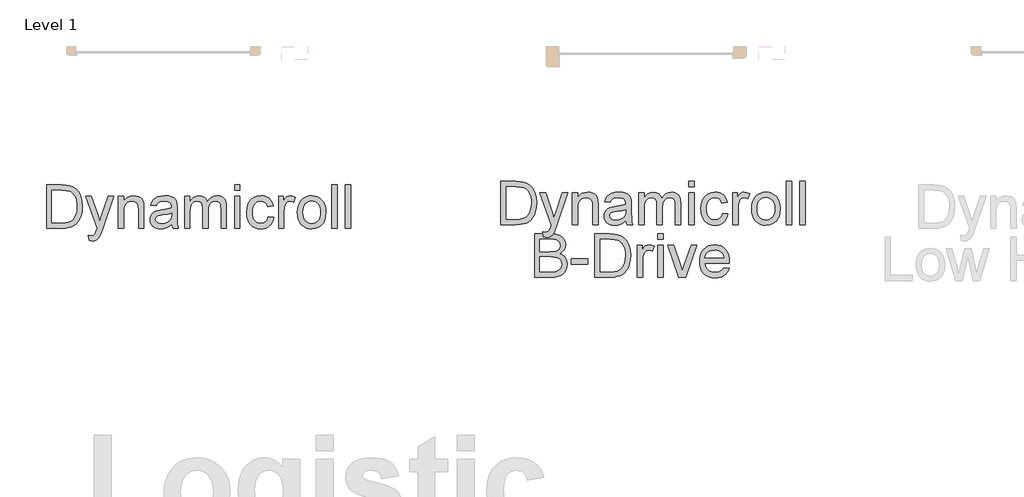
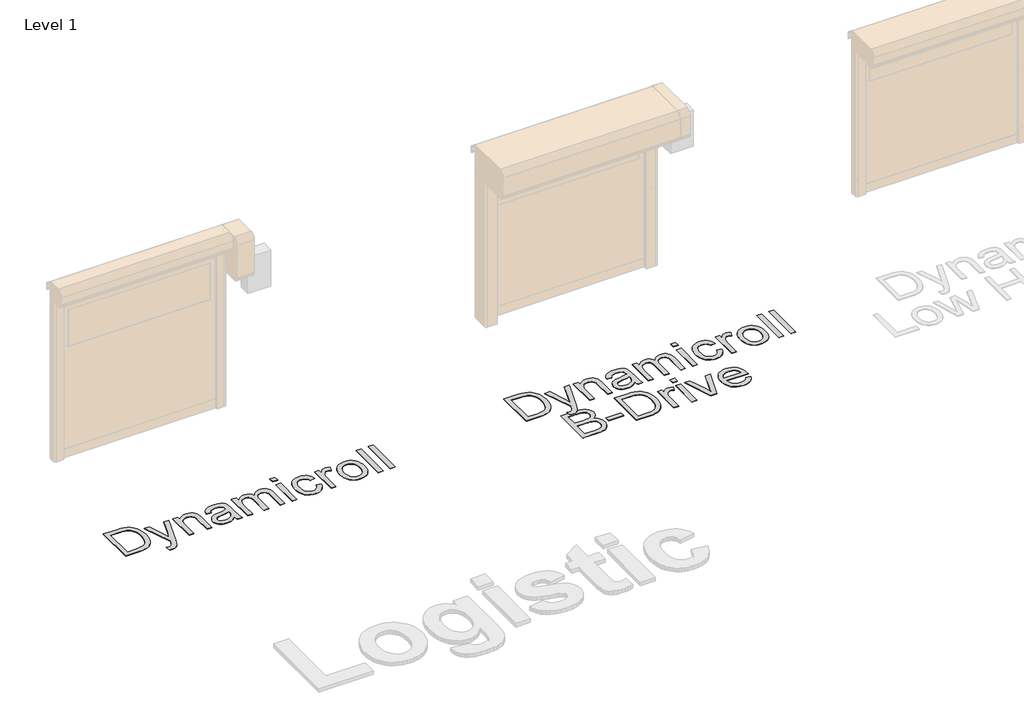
# One storey, part 8 of 20: 2 proxies.
"""IFC4 building model written with IfcOpenShell, lengths in millimetres."""

import ifcopenshell
import ifcopenshell.guid

model = None  # the IFC model being written
_history = None  # IfcOwnerHistory: only IFC2X3 demands one
_inside = {}  # id of a spatial element -> (the spatial element, [elements in it])
_under = {}  # id of a project, library or spatial element -> (it, [spatial elements below it])
_declared = {}  # id of a project -> (the project, [libraries it declares])
_typed = {}  # id of a type object -> (the type object, [elements of that type])
_made_of = {}  # id of a material, layer set ... -> (it, [elements and type objects made of it])


def new_model(schema):
    """Start an empty IFC model of exactly this schema.

    Asked for "IFC4X3", IfcOpenShell would pick the latest addendum, in which some entities
    have other attributes; the version numbers below select the first issue.
    IFC2X3 requires an IfcOwnerHistory on every rooted entity: one is made here for all.
    """
    global model, _history
    if schema == "IFC4X3":
        model = ifcopenshell.file(schema_version=(4, 3, 0, 0))
    else:
        model = ifcopenshell.file(schema=schema)
    _inside.clear()
    _under.clear()
    _declared.clear()
    _typed.clear()
    _made_of.clear()
    _history = None
    if model.schema == "IFC2X3":
        org = make("IfcOrganization", Name="unknown")
        user = make(
            "IfcPersonAndOrganization",
            ThePerson=make("IfcPerson", FamilyName="unknown"),
            TheOrganization=org,
        )
        app = make(
            "IfcApplication",
            ApplicationDeveloper=org,
            Version="unknown",
            ApplicationFullName="unknown",
            ApplicationIdentifier="unknown",
        )
        _history = make(
            "IfcOwnerHistory",
            OwningUser=user,
            OwningApplication=app,
            ChangeAction="ADDED",
            CreationDate=0,
        )
    return model


def make(cls, **values):
    """One entity of the class cls with the attributes given. An attribute that is None is left unset."""
    return model.create_entity(
        cls, **{name: value for name, value in values.items() if value is not None}
    )


def rooted(cls, **values):
    """An entity with a GlobalId (a new one), such as an element, a storey or a relation."""
    return make(cls, GlobalId=ifcopenshell.guid.new(), OwnerHistory=_history, **values)


def si_unit(unit_type, name, prefix=None):
    """IfcSIUnit, for example si_unit("LENGTHUNIT", "METRE", prefix="MILLI")."""
    return make("IfcSIUnit", UnitType=unit_type, Prefix=prefix, Name=name)


def assignment(units):
    """IfcUnitAssignment: the units of a project."""
    return None if units is None else make("IfcUnitAssignment", Units=units)


def point(xyz):
    """IfcCartesianPoint."""
    return None if xyz is None else make("IfcCartesianPoint", Coordinates=xyz)


def direction(xyz):
    """IfcDirection."""
    return None if xyz is None else make("IfcDirection", DirectionRatios=xyz)


def frame(location, z_axis=None, x_axis=None):
    """IfcAxis2Placement3D, a coordinate frame: its origin and axes. An axis left out is left unset."""
    return make(
        "IfcAxis2Placement3D",
        Location=point(location),
        Axis=direction(z_axis),
        RefDirection=direction(x_axis),
    )


def origin():
    """The frame at (0, 0, 0) with its axes left unset."""
    return frame((0.0, 0.0, 0.0))


def origin_with_axes():
    """The frame at (0, 0, 0) with the z axis (0, 0, 1) and the x axis (1, 0, 0) written out."""
    return frame((0.0, 0.0, 0.0), z_axis=(0.0, 0.0, 1.0), x_axis=(1.0, 0.0, 0.0))


def place(relative_to, where):
    """IfcLocalPlacement: puts the frame where relative to a parent placement (None: the world)."""
    return make(
        "IfcLocalPlacement", PlacementRelTo=relative_to, RelativePlacement=where
    )


def context(
    kind, dimensions, precision=None, world=None, true_north=None, identifier=None
):
    """IfcGeometricRepresentationContext, for example the 3D "Model" context."""
    return make(
        "IfcGeometricRepresentationContext",
        ContextIdentifier=identifier,
        ContextType=kind,
        CoordinateSpaceDimension=dimensions,
        Precision=precision,
        WorldCoordinateSystem=world,
        TrueNorth=true_north,
    )


def project(units=None, contexts=None):
    """IfcProject with its units and contexts."""
    return rooted(
        "IfcProject",
        Name="project",
        RepresentationContexts=contexts,
        UnitsInContext=assignment(units),
    )


def spatial(cls, under=None, at=None, **own):
    """A site, building, storey or space (cls), placed at a placement, below another one or the project."""
    s = rooted(cls, ObjectPlacement=at, **own)
    if under is not None:
        _under.setdefault(under.id(), (under, []))[1].append(s)
    return s


def polyline(points):
    """IfcPolyline through the points."""
    return make("IfcPolyline", Points=[point(p) for p in points])


def outline(outer, holes=None, kind="AREA"):
    """IfcArbitraryClosedProfileDef: a profile drawn as a closed curve; with holes, ...WithVoids."""
    if holes is None:
        return make("IfcArbitraryClosedProfileDef", ProfileType=kind, OuterCurve=outer)
    return make(
        "IfcArbitraryProfileDefWithVoids",
        ProfileType=kind,
        OuterCurve=outer,
        InnerCurves=holes,
    )


def extrude(swept, where, along, depth):
    """IfcExtrudedAreaSolid: the profile swept, set in the frame where, extruded along a direction by depth."""
    return make(
        "IfcExtrudedAreaSolid",
        SweptArea=swept,
        Position=where,
        ExtrudedDirection=direction(along),
        Depth=depth,
    )


def shape(context_of_items, identifier, shape_type, items):
    """IfcShapeRepresentation: the items that make up one representation, for example the "Body"."""
    return make(
        "IfcShapeRepresentation",
        ContextOfItems=context_of_items,
        RepresentationIdentifier=identifier,
        RepresentationType=shape_type,
        Items=items,
    )


def made_of(thing, what):
    """Note that an element or type object is made of a material, layer set ...; save() writes the relation."""
    if what is not None:
        _made_of.setdefault(what.id(), (what, []))[1].append(thing)
    return thing


def element(
    cls,
    number,
    at=None,
    inside=None,
    cuts=None,
    type_object=None,
    material=None,
    context=None,
    identifier="Body",
    shape_type=None,
    held_by="IfcProductDefinitionShape",
    body=None,
    shapes=None,
    **own,
):
    """One element of the class cls, such as IfcWall. Its Tag is "e" and its number.

    at: its placement. inside: the storey or other place that contains it. cuts: it is an
    opening in that element (IfcRelVoidsElement). A single representation is given by context,
    identifier, shape_type and body (its items); several are given by shapes. held_by: the class
    of the entity that holds the representations. save() writes the other relations.
    """
    e = rooted(cls, Tag="e%d" % number, ObjectPlacement=at, **own)
    if body is not None:
        shapes = [shape(context, identifier, shape_type, body)]
    if shapes is not None:
        e.Representation = make(held_by, Representations=shapes)
    if inside is not None:
        _inside.setdefault(inside.id(), (inside, []))[1].append(e)
    if cuts is not None:
        rooted(
            "IfcRelVoidsElement", RelatingBuildingElement=cuts, RelatedOpeningElement=e
        )
    if type_object is not None:
        _typed.setdefault(type_object.id(), (type_object, []))[1].append(e)
    return made_of(e, material)


def aggregate(whole, parts):
    """IfcRelAggregates: a whole, such as a stair, and the parts it consists of."""
    return rooted("IfcRelAggregates", RelatingObject=whole, RelatedObjects=parts)


def save(model, path):
    """Write the relations noted so far, then the file.

    IfcRelAggregates (storeys below a building ...), IfcRelContainedInSpatialStructure (elements
    in a storey), IfcRelDefinesByType, IfcRelAssociatesMaterial and IfcRelDeclares: one each for
    every whole, place, type object, material and project.
    """
    for whole, parts in _under.values():
        aggregate(whole, parts)
    for where, things in _inside.values():
        rooted(
            "IfcRelContainedInSpatialStructure",
            RelatedElements=things,
            RelatingStructure=where,
        )
    for kind, things in _typed.values():
        rooted("IfcRelDefinesByType", RelatedObjects=things, RelatingType=kind)
    for what, things in _made_of.values():
        rooted("IfcRelAssociatesMaterial", RelatedObjects=things, RelatingMaterial=what)
    for by, libraries in _declared.values():
        rooted("IfcRelDeclares", RelatingContext=by, RelatedDefinitions=libraries)
    model.write(path)


model = new_model("IFC4")

# Units and contexts
model_context = context("Model", 3, world=origin())
ifc_project = project(units=[si_unit("LENGTHUNIT", "METRE", prefix="MILLI")], contexts=[model_context])

# Site, building, storey
site = spatial("IfcSite", under=ifc_project)
building = spatial("IfcBuilding", under=site)
storey = spatial("IfcBuildingStorey", under=building, Name="Level 1", Elevation=0.0)

# Proxies
placement = place(None, origin())
element("IfcBuildingElementProxy", 1, Name="500mm", ObjectType="500mm", at=placement, inside=storey, context=model_context, shape_type="SweptSolid", body=[
    extrude(outline(polyline([(5402.5904997, 30395.6464997), (5402.5904997, 30897.9280504), (5575.8629195, 30897.9280504), (5627.6423103, 30896.1192973), (5665.5034989, 30890.6930378), (5705.5413228, 30876.7441789), (5739.3251526, 30854.7632296), (5757.9415144, 30836.7983256), (5774.0593444, 30816.5035022), (5787.6786424, 30793.8787594), (5798.7994085, 30768.9240974), (5813.6066588, 30712.9447205), (5818.5424089, 30649.4850763), (5815.2008142, 30595.5750356), (5805.1760298, 30548.1335867), (5789.908927, 30507.7432093), (5770.8403769, 30474.9863833), (5748.8900845, 30449.1273447), (5724.9777548, 30429.4303296), (5697.5245609, 30414.8223487), (5664.951676, 30404.2304129), (5627.1977862, 30397.792478), (5584.201578, 30395.6464997), (5402.5904997, 30395.6464997)]), holes=[polyline([(5465.3756936, 30458.4316935), (5576.4760561, 30458.4316935), (5622.4306487, 30460.7002991), (5657.2874677, 30467.5061161), (5683.5910304, 30478.4506054), (5703.8858538, 30493.1352284), (5725.6981904, 30520.3125108), (5742.0842676, 30555.4912266), (5752.3389782, 30598.8246599), (5755.7572151, 30650.466095), (5754.0825856, 30686.9170694), (5749.0586971, 30718.8921461), (5740.6855496, 30746.3913252), (5728.9631431, 30769.4146068), (5714.8418394, 30788.4831569), (5699.2720004, 30804.1181416), (5682.253626, 30816.3195612), (5663.7867163, 30825.0874154), (5627.6729671, 30832.6289963), (5574.7592735, 30835.1428566), (5465.3756936, 30835.1428566), (5465.3756936, 30458.4316935)])]), origin_with_axes(), (0.0, 0.0, 1.0), 5.0),
    extrude(outline(polyline([(5897.0239012, 30254.3798135), (5889.175752, 30314.8350881), (5921.0588583, 30309.3168581), (5937.8281459, 30311.0489692), (5950.8572999, 30316.2453024), (5961.0047116, 30324.5379757), (5969.1287723, 30335.5591071), (5986.2965987, 30381.7896112), (5991.201692, 30396.9954003), (5857.7831551, 30764.5095135), (5924.0019142, 30764.5095135), (5994.7578846, 30559.7218695), (6019.4059783, 30477.8068119), (6044.054072, 30550.1569376), (6116.7720797, 30764.5095135), (6182.5003295, 30764.5095135), (6054.1095132, 30386.8173318), (6020.754879, 30304.9022742), (6003.679023, 30278.7519957), (5984.3345614, 30260.6338074), (5961.8631029, 30250.0572001), (5935.4062561, 30246.5316643), (5917.2267541, 30248.4937016), (5897.0239012, 30254.3798135)])), origin_with_axes(), (0.0, 0.0, 1.0), 5.0),
    extrude(outline(polyline([(6234.4943182, 30395.6464997), (6234.4943182, 30764.5095135), (6297.279512, 30764.5095135), (6297.279512, 30713.0060342), (6319.0918486, 30738.9723717), (6345.2881124, 30757.5197556), (6375.8683032, 30768.6481859), (6410.8324212, 30772.3576627), (6441.780494, 30769.3686215), (6470.1227361, 30760.4014979), (6493.7591543, 30746.5752662), (6510.5897555, 30729.008901), (6522.0094258, 30707.7483873), (6529.413051, 30682.8397106), (6532.7239889, 30622.1391814), (6532.7239889, 30395.6464997), (6469.9387951, 30395.6464997), (6469.9387951, 30613.6778955), (6468.1300419, 30646.1434816), (6462.7037825, 30669.2280767), (6452.6943265, 30685.7674381), (6437.1359838, 30698.5973227), (6417.193714, 30706.8286823), (6394.0324767, 30709.5724689), (6374.9677588, 30708.031963), (6357.2596056, 30703.4104455), (6340.9080174, 30695.7079162), (6325.912994, 30684.9243752), (6313.3858456, 30669.8335492), (6304.4378825, 30649.2091648), (6299.0691046, 30623.0512221), (6297.279512, 30591.3597211), (6297.279512, 30395.6464997), (6234.4943182, 30395.6464997)])), origin_with_axes(), (0.0, 0.0, 1.0), 5.0),
    extrude(outline(polyline([(6854.4981074, 30442.7353951), (6824.5003963, 30417.0143122), (6793.6136372, 30400.1837109), (6761.1327227, 30390.8946906), (6726.3525457, 30387.7983504), (6698.3973462, 30389.660753), (6673.8833761, 30395.2479608), (6652.8106356, 30404.5599738), (6635.1791246, 30417.596792), (6621.2570903, 30433.530681), (6611.3127801, 30451.5339061), (6605.346194, 30471.6064675), (6603.357332, 30493.748365), (6606.3617016, 30519.7760162), (6615.3748105, 30543.4124344), (6629.2776842, 30563.6459441), (6646.9513484, 30579.4648699), (6667.7213527, 30591.4210348), (6690.9132468, 30600.0662617), (6745.2371548, 30609.5085662), (6809.432563, 30619.4413801), (6854.1302254, 30631.0909766), (6854.4981074, 30645.0704924), (6850.1754939, 30673.0908377), (6837.2076536, 30691.4236238), (6824.1325143, 30699.3637435), (6808.2062896, 30705.0352576), (6767.8005838, 30709.5724689), (6730.3992477, 30706.5527708), (6704.279626, 30697.4936767), (6686.4680061, 30680.7397175), (6673.9906751, 30654.6354243), (6611.2054812, 30662.4835735), (6622.1039853, 30696.8192264), (6638.3674352, 30723.7972394), (6661.5133441, 30744.4292879), (6693.0592251, 30759.7270476), (6731.6408494, 30769.2000089), (6775.8939877, 30772.3576627), (6818.3383729, 30769.5678909), (6851.9842471, 30761.1985755), (6877.3527763, 30748.6139456), (6894.9651268, 30733.1782302), (6906.6453802, 30714.0943517), (6914.2176179, 30690.5652325), (6917.2833012, 30635.6281879), (6917.2833012, 30557.5145775), (6920.4716118, 30448.437566), (6925.1927641, 30421.4748814), (6932.9795997, 30395.6464997), (6870.1944058, 30395.6464997), (6860.1389646, 30417.4741647), (6854.4981074, 30442.7353951)]), holes=[polyline([(6854.4981074, 30568.3057827), (6812.3143052, 30557.8518027), (6753.2079314, 30549.0532917), (6699.1905917, 30538.8752231), (6685.1344338, 30531.916122), (6674.7264391, 30522.3205333), (6668.2885041, 30510.824221), (6666.1425258, 30498.162949), (6670.8176929, 30479.4929377), (6684.8431939, 30464.1951781), (6707.9124607, 30453.9864527), (6739.7189249, 30450.5835443), (6773.4414411, 30454.3390063), (6803.2398827, 30465.6053924), (6827.397467, 30482.2060675), (6844.1974115, 30501.9643963), (6851.6470219, 30522.3205333), (6854.1302254, 30550.5248196), (6854.4981074, 30568.3057827)])]), origin_with_axes(), (0.0, 0.0, 1.0), 5.0),
    extrude(outline(polyline([(7003.6129427, 30395.6464997), (7003.6129427, 30764.5095135), (7066.3981366, 30764.5095135), (7066.3981366, 30703.8089843), (7085.2827457, 30731.6913738), (7109.5629574, 30753.5343673), (7138.4110371, 30767.6518389), (7170.9992505, 30772.3576627), (7205.9173833, 30767.5598684), (7233.9070717, 30753.1664853), (7254.8150318, 30730.1278754), (7268.4879793, 30699.3944004), (7291.373305, 30731.3158276), (7317.4775983, 30754.1168471), (7346.800859, 30767.7974588), (7379.3430871, 30772.3576627), (7404.477858, 30770.4607712), (7426.5392814, 30764.7700966), (7445.5273573, 30755.2856389), (7461.4420857, 30742.0073981), (7474.0228836, 30724.7820901), (7483.0091677, 30703.4564307), (7488.4009382, 30678.0304199), (7490.198195, 30648.5040577), (7490.198195, 30395.6464997), (7427.4130012, 30395.6464997), (7427.4130012, 30621.5260447), (7425.9568016, 30652.8419995), (7421.5882029, 30673.949229), (7413.4028285, 30688.4039257), (7400.4963019, 30699.7622823), (7383.8956268, 30707.1199223), (7364.6278073, 30709.5724689), (7346.8353479, 30708.0013062), (7330.6140512, 30703.2878181), (7315.9639172, 30695.4320047), (7302.8849458, 30684.4338659), (7292.1282296, 30669.9715049), (7284.4448608, 30651.7230251), (7279.8348396, 30629.6884265), (7278.2981658, 30603.8677089), (7278.2981658, 30395.6464997), (7215.512972, 30395.6464997), (7215.512972, 30628.5158026), (7211.8801373, 30664.0164152), (7200.9816332, 30689.3389592), (7192.5548362, 30698.1911197), (7181.8057842, 30704.5140915), (7153.3409148, 30709.5724689), (7129.1526736, 30706.2002173), (7106.8651561, 30696.0834624), (7088.4710563, 30679.4674589), (7075.9630685, 30656.5974616), (7068.7893696, 30624.8676395), (7066.3981366, 30581.6721619), (7066.3981366, 30395.6464997), (7003.6129427, 30395.6464997)])), origin_with_axes(), (0.0, 0.0, 1.0), 5.0),
    extrude(outline(polyline([(7584.3759858, 30835.1428566), (7584.3759858, 30897.9280504), (7647.1611796, 30897.9280504), (7647.1611796, 30835.1428566), (7584.3759858, 30835.1428566)])), origin_with_axes(), (0.0, 0.0, 1.0), 5.0),
    extrude(outline(polyline([(7584.3759858, 30395.6464997), (7584.3759858, 30764.5095135), (7647.1611796, 30764.5095135), (7647.1611796, 30395.6464997), (7584.3759858, 30395.6464997)])), origin_with_axes(), (0.0, 0.0, 1.0), 5.0),
    extrude(outline(polyline([(7976.7834473, 30529.0650366), (8039.5686412, 30521.2168874), (8032.7398316, 30491.5908904), (8022.0635896, 30465.3754662), (8007.539915, 30442.5706146), (7989.1688078, 30423.1763356), (7967.7243532, 30407.6984671), (7943.9806361, 30396.6428467), (7917.9376565, 30390.0094745), (7889.5954145, 30387.7983504), (7854.3822097, 30390.8831943), (7822.8095039, 30400.1377257), (7794.877297, 30415.5619448), (7770.585589, 30437.1558515), (7750.9230628, 30464.5132427), (7736.8784012, 30497.2279156), (7728.4516043, 30535.29987), (7725.6426719, 30578.7291059), (7730.4404663, 30634.601184), (7744.8338494, 30683.0236516), (7755.6863682, 30703.9737648), (7769.0527474, 30722.126442), (7784.9329868, 30737.4816832), (7803.3270866, 30750.0394884), (7844.3306006, 30766.7781191), (7888.7370231, 30772.3576627), (7916.592588, 30770.4416107), (7941.7886725, 30764.6934545), (7964.3252768, 30755.1131942), (7984.2024009, 30741.7008298), (8001.0828195, 30724.7629296), (8014.6293076, 30704.606062), (8024.841865, 30681.2302268), (8031.7204919, 30654.6354243), (7968.9352981, 30646.787275), (7957.5462846, 30674.1791553), (7939.8113068, 30693.8148568), (7916.7113832, 30705.6330659), (7889.2275325, 30709.5724689), (7867.8942088, 30707.6334242), (7848.6532141, 30701.8162902), (7831.5045482, 30692.1210667), (7816.4482111, 30678.547754), (7804.18931, 30660.7821193), (7795.4329521, 30638.5099302), (7790.1791374, 30611.7311866), (7788.4278658, 30580.4458886), (7790.1408163, 30548.6892418), (7795.2796679, 30521.6000978), (7803.8444206, 30499.1784566), (7815.8350744, 30481.4243182), (7830.5925074, 30467.9314796), (7847.4575976, 30458.2937378), (7866.4303451, 30452.5110927), (7887.5107498, 30450.5835443), (7920.0223211, 30455.3966671), (7946.6784374, 30469.8360354), (7957.4581463, 30480.7575321), (7966.0688842, 30494.2695312), (7976.7834473, 30529.0650366)])), origin_with_axes(), (0.0, 0.0, 1.0), 5.0),
    extrude(outline(polyline([(8094.5056858, 30395.6464997), (8094.5056858, 30764.5095135), (8149.4427304, 30764.5095135), (8149.4427304, 30709.9403509), (8169.7375538, 30741.5782025), (8188.4382219, 30760.2175569), (8207.2002036, 30769.3226363), (8227.678968, 30772.3576627), (8258.9489376, 30767.5138831), (8290.7094165, 30752.9825443), (8269.7401428, 30696.6965991), (8247.6672231, 30706.3535014), (8225.5943034, 30709.5724689), (8206.84765, 30706.4761288), (8190.0936909, 30697.1871084), (8176.5586991, 30682.4105149), (8167.4689481, 30662.8514555), (8159.8353967, 30627.7800386), (8157.2908796, 30589.5203111), (8157.2908796, 30395.6464997), (8094.5056858, 30395.6464997)])), origin_with_axes(), (0.0, 0.0, 1.0), 5.0),
    extrude(outline(polyline([(8314.2538642, 30580.0780066), (8317.6491085, 30627.8490165), (8327.8348412, 30669.0134789), (8344.8110624, 30703.5713938), (8368.5777722, 30731.5227613), (8392.5054303, 30749.3880307), (8418.9162919, 30762.1489374), (8447.8103569, 30769.8054814), (8479.1876254, 30772.3576627), (8513.8260145, 30769.2498263), (8545.1458014, 30759.926317), (8573.1469862, 30744.3871348), (8597.8295688, 30722.6322797), (8617.9749402, 30695.3975158), (8632.3644911, 30663.4186069), (8640.9982217, 30626.6955532), (8643.8761319, 30585.2283545), (8638.7870976, 30521.7993672), (8632.4258048, 30495.7640518), (8623.5199948, 30473.5148553), (8612.1807988, 30454.2968532), (8598.5193476, 30437.3551209), (8582.5356413, 30422.6896584), (8564.2296799, 30410.3004658), (8523.5020774, 30393.4238793), (8479.1876254, 30387.7983504), (8444.0433985, 30390.8946906), (8412.4323717, 30400.1837109), (8384.3545448, 30415.6654116), (8359.809918, 30437.3397925), (8339.8791444, 30464.8389716), (8325.6428777, 30497.795067), (8317.1011176, 30536.2080787), (8314.2538642, 30580.0780066)]), holes=[polyline([(8377.0390581, 30580.2006339), (8378.8554754, 30549.7469025), (8384.3047275, 30523.3781941), (8393.3868142, 30501.0945086), (8406.1017357, 30482.8958462), (8421.5681079, 30468.7592141), (8438.9045469, 30458.6616198), (8458.1110528, 30452.6030632), (8479.1876254, 30450.5835443), (8500.1568991, 30452.6145595), (8519.2867629, 30458.707605), (8536.5772166, 30468.8626809), (8552.0282604, 30483.0797872), (8564.7431819, 30501.4585585), (8573.8252687, 30524.0986297), (8579.2745207, 30551.0000005), (8581.0909381, 30582.1626712), (8579.2630244, 30611.6507124), (8573.7792834, 30637.3296421), (8564.6397151, 30659.1994603), (8551.8443194, 30677.260167), (8536.3357941, 30691.3967991), (8519.0568366, 30701.4943934), (8500.0074471, 30707.55295), (8479.1876254, 30709.5724689), (8458.1110528, 30707.5606142), (8438.9045469, 30701.5250502), (8421.5681079, 30691.4657769), (8406.1017357, 30677.3827943), (8393.3868142, 30659.2377813), (8384.3047275, 30636.9924169), (8378.8554754, 30610.6467011), (8377.0390581, 30580.2006339)])]), origin_with_axes(), (0.0, 0.0, 1.0), 5.0),
    extrude(outline(polyline([(8714.509475, 30395.6464997), (8714.509475, 30897.9280504), (8777.2946688, 30897.9280504), (8777.2946688, 30395.6464997), (8714.509475, 30395.6464997)])), origin_with_axes(), (0.0, 0.0, 1.0), 5.0),
    extrude(outline(polyline([(8871.4724596, 30395.6464997), (8871.4724596, 30897.9280504), (8934.2576534, 30897.9280504), (8934.2576534, 30395.6464997), (8871.4724596, 30395.6464997)])), origin_with_axes(), (0.0, 0.0, 1.0), 5.0),
    extrude(outline(polyline([(5794.9979613, 29785.7724104), (5794.9979613, 30288.0539612), (5986.6644807, 30288.0539612), (6039.378905, 30284.3598128), (6080.5357032, 30273.2773677), (6112.0815843, 30254.5307144), (6135.9632571, 30227.8439413), (6151.0004337, 30196.4513444), (6156.0128259, 30163.5872195), (6151.7975113, 30133.3442538), (6139.1515677, 30104.9100413), (6117.9830246, 30080.0320213), (6088.1999114, 30060.4576335), (6107.1496663, 30052.379558), (6123.777166, 30041.8795928), (6138.0824107, 30028.9577377), (6150.0654003, 30013.6139928), (6166.2981933, 29977.5309004), (6171.7091243, 29935.5003825), (6168.0149759, 29900.4749509), (6156.9325308, 29867.9940364), (6140.3931695, 29840.3722299), (6120.3282723, 29819.9241223), (6095.7568207, 29805.116872), (6065.697796, 29794.4176373), (6029.1701796, 29787.9337172), (5985.1929528, 29785.7724104), (5794.9979613, 29785.7724104)]), holes=[polyline([(5857.7831551, 30084.0020812), (5972.4397103, 30084.0020812), (6012.5388477, 30085.3509818), (6039.3942334, 30089.3976838), (6062.8313822, 30098.7020326), (6079.6773119, 30112.6355632), (6089.840052, 30130.9836777), (6093.227632, 30153.5317783), (6090.0699782, 30175.420757), (6080.5970168, 30194.4893071), (6065.2379435, 30209.3731995), (6044.421954, 30218.7082051), (6012.4775341, 30223.6286268), (5963.7331697, 30225.2687673), (5857.7831551, 30225.2687673), (5857.7831551, 30084.0020812)]), polyline([(5857.7831551, 29848.5576043), (5986.5418534, 29848.5576043), (6033.1402395, 29851.0101509), (6054.7686351, 29856.4517388), (6072.5649266, 29864.6830984), (6087.0349518, 29876.4706507), (6098.6845483, 29892.5808164), (6106.3640849, 29912.29316), (6108.9239305, 29934.8872458), (6105.9195608, 29961.1294948), (6096.906452, 29983.6929238), (6081.1641682, 30001.3359312), (6057.9722741, 30012.8169151), (6025.1234777, 30019.1168943), (5980.4104868, 30021.2168874), (5857.7831551, 30021.2168874), (5857.7831551, 29848.5576043)])]), origin_with_axes(), (0.0, 0.0, 1.0), 5.0),
    extrude(outline(polyline([(6218.7980197, 29934.8872458), (6218.7980197, 29997.6724397), (6415.0017505, 29997.6724397), (6415.0017505, 29934.8872458), (6218.7980197, 29934.8872458)])), origin_with_axes(), (0.0, 0.0, 1.0), 5.0),
    extrude(outline(polyline([(6493.4832428, 29785.7724104), (6493.4832428, 30288.0539612), (6666.7556625, 30288.0539612), (6718.5350533, 30286.245208), (6756.396242, 30280.8189486), (6796.4340658, 30266.8700896), (6830.2178957, 30244.8891404), (6848.8342575, 30226.9242363), (6864.9520874, 30206.6294129), (6878.5713854, 30184.0046702), (6889.6921516, 30159.0500082), (6904.4994019, 30103.0706313), (6909.435152, 30039.6109871), (6906.0935572, 29985.7009464), (6896.0687728, 29938.2594974), (6880.80167, 29897.8691201), (6861.7331199, 29865.1122941), (6839.7828276, 29839.2532555), (6815.8704979, 29819.5562403), (6788.417304, 29804.9482594), (6755.844419, 29794.3563237), (6718.0905292, 29787.9183887), (6675.094321, 29785.7724104), (6493.4832428, 29785.7724104)]), holes=[polyline([(6556.2684366, 29848.5576043), (6667.3687991, 29848.5576043), (6713.3233917, 29850.8262099), (6748.1802108, 29857.6320268), (6774.4837734, 29868.5765162), (6794.7785968, 29883.2611392), (6816.5909334, 29910.4384216), (6832.9770106, 29945.6171373), (6843.2317213, 29988.9505707), (6846.6499581, 30040.5920058), (6844.9753286, 30077.0429801), (6839.9514401, 30109.0180569), (6831.5782926, 30136.517236), (6819.8558861, 30159.5405175), (6805.7345825, 30178.6090676), (6790.1647435, 30194.2440524), (6773.1463691, 30206.4454719), (6754.6794593, 30215.2133261), (6718.5657101, 30222.754907), (6665.6520165, 30225.2687673), (6556.2684366, 30225.2687673), (6556.2684366, 29848.5576043)])]), origin_with_axes(), (0.0, 0.0, 1.0), 5.0),
    extrude(outline(polyline([(6987.9166443, 29785.7724104), (6987.9166443, 30154.6354243), (7042.8536889, 30154.6354243), (7042.8536889, 30100.0662617), (7063.1485123, 30131.7041132), (7081.8491804, 30150.3434677), (7100.6111621, 30159.448547), (7121.0899265, 30162.4835735), (7152.3598961, 30157.6397939), (7184.120375, 30143.1084551), (7163.1511013, 30086.8225098), (7141.0781816, 30096.4794122), (7119.0052619, 30099.6983797), (7100.2586086, 30096.6020395), (7083.5046494, 30087.3130192), (7069.9696576, 30072.5364257), (7060.8799067, 30052.9773663), (7053.2463553, 30017.9059494), (7050.7018381, 29979.6462219), (7050.7018381, 29785.7724104), (6987.9166443, 29785.7724104)])), origin_with_axes(), (0.0, 0.0, 1.0), 5.0),
    extrude(outline(polyline([(7223.3611212, 30225.2687673), (7223.3611212, 30288.0539612), (7286.146315, 30288.0539612), (7286.146315, 30225.2687673), (7223.3611212, 30225.2687673)])), origin_with_axes(), (0.0, 0.0, 1.0), 5.0),
    extrude(outline(polyline([(7223.3611212, 29785.7724104), (7223.3611212, 30154.6354243), (7286.146315, 30154.6354243), (7286.146315, 29785.7724104), (7223.3611212, 29785.7724104)])), origin_with_axes(), (0.0, 0.0, 1.0), 5.0),
    extrude(outline(polyline([(7470.8230766, 29785.7724104), (7341.0833596, 30154.6354243), (7407.5473734, 30154.6354243), (7486.1514931, 29933.6609725), (7509.8185681, 29859.3488095), (7532.9951338, 29929.4916432), (7612.0897628, 30154.6354243), (7678.5537766, 30154.6354243), (7550.4082149, 29785.7724104), (7470.8230766, 29785.7724104)])), origin_with_axes(), (0.0, 0.0, 1.0), 5.0),
    extrude(outline(polyline([(7991.7439818, 29895.6464997), (8053.3029023, 29887.7983504), (8043.8644299, 29863.1425926), (8031.1226837, 29841.4145622), (8015.0776637, 29822.6142594), (7995.7293701, 29806.7416842), (7973.277072, 29794.1340616), (7947.9200391, 29785.128617), (7919.6582712, 29779.7253501), (7888.4917685, 29777.9242612), (7849.534598, 29781.0320977), (7814.8233989, 29790.355607), (7784.3581712, 29805.8947892), (7758.1389148, 29827.6496442), (7737.054678, 29855.0146997), (7721.9945088, 29887.3844832), (7712.9584073, 29924.7589946), (7709.9463735, 29967.1382341), (7712.9890641, 30010.9545125), (7722.1171362, 30049.5744578), (7737.3305895, 30082.9980699), (7758.6294242, 30111.2253488), (7784.7797027, 30133.6508221), (7814.5474874, 30149.6690173), (7847.9327785, 30159.2799345), (7884.9355759, 30162.4835735), (7920.7465888, 30159.2875987), (7953.1317007, 30149.6996742), (7982.0909115, 30133.7198), (8007.6242212, 30111.3479762), (8028.4670355, 30083.1820109), (8043.35476, 30049.8197125), (8052.2873947, 30011.2610809), (8055.2649396, 29967.5061161), (8054.8970576, 29950.5835443), (7772.7315673, 29950.5835443), (7776.3682341, 29925.5292476), (7783.5994146, 29903.5866194), (7794.4251087, 29884.7556598), (7808.8453165, 29869.0363687), (7826.0629603, 29856.643344), (7845.2809625, 29847.7911835), (7866.4993229, 29842.4798872), (7889.7180418, 29840.7094551), (7923.1339897, 29843.9897362), (7951.2769623, 29853.8305796), (7974.1469597, 29870.8451218), (7991.7439818, 29895.6464997)]), holes=[polyline([(7772.7315673, 30013.3687381), (7992.4797458, 30013.3687381), (7983.9878031, 30046.5394314), (7967.3411428, 30070.26782), (7950.2193016, 30083.1436899), (7930.7368843, 30092.3407398), (7908.8938908, 30097.8589697), (7884.6903212, 30099.6983797), (7842.3685633, 30093.8275962), (7823.955303, 30086.4891168), (7807.3737885, 30076.2152456), (7793.4594185, 30063.4811637), (7783.0475916, 30048.7620517), (7776.1383079, 30032.0579099), (7772.7315673, 30013.3687381)])]), origin_with_axes(), (0.0, 0.0, 1.0), 5.0),
])
element("IfcBuildingElementProxy", 2, Name="500mm", ObjectType="500mm", at=placement, inside=storey, context=model_context, shape_type="SweptSolid", body=[
    extrude(outline(polyline([(132.2974666, 30354.3905971), (132.2974666, 30856.6721479), (305.5698863, 30856.6721479), (357.3492772, 30854.8633947), (395.2104658, 30849.4371353), (435.2482896, 30835.4882763), (469.0321195, 30813.5073271), (487.6484813, 30795.542423), (503.7663112, 30775.2475996), (517.3856093, 30752.6228569), (528.5063754, 30727.6681949), (543.3136257, 30671.688818), (548.2493758, 30608.2291738), (544.907781, 30554.3191331), (534.8829967, 30506.8776841), (519.6158939, 30466.4873067), (500.5473438, 30433.7304807), (478.5970514, 30407.8714422), (454.6847217, 30388.174427), (427.2315278, 30373.5664461), (394.6586428, 30362.9745103), (356.9047531, 30356.5365754), (313.9085449, 30354.3905971), (132.2974666, 30354.3905971)]), holes=[polyline([(195.0826604, 30417.175791), (306.183023, 30417.175791), (352.1376156, 30419.4443966), (386.9944346, 30426.2502135), (413.2979973, 30437.1947029), (433.5928207, 30451.8793258), (455.4051573, 30479.0566082), (471.7912345, 30514.235324), (482.0459451, 30557.5687574), (485.464182, 30609.2101924), (483.7895525, 30645.6611668), (478.765664, 30677.6362436), (470.3925165, 30705.1354227), (458.67011, 30728.1587042), (444.5488063, 30747.2272543), (428.9789673, 30762.8622391), (411.9605929, 30775.0636586), (393.4936832, 30783.8315128), (357.379934, 30791.3730937), (304.4662403, 30793.886954), (195.0826604, 30793.886954), (195.0826604, 30417.175791)])]), origin_with_axes(), (0.0, 0.0, 1.0), 5.0),
    extrude(outline(polyline([(626.7308681, 30213.123911), (618.8827189, 30273.5791855), (650.7658251, 30268.0609556), (667.5351128, 30269.7930666), (680.5642668, 30274.9893998), (690.7116785, 30283.2820731), (698.8357392, 30294.3032046), (716.0035656, 30340.5337086), (720.9086589, 30355.7394978), (587.490122, 30723.253611), (653.7088811, 30723.253611), (724.4648515, 30518.465967), (749.1129452, 30436.5509094), (773.7610389, 30508.9010351), (846.4790466, 30723.253611), (912.2072964, 30723.253611), (783.8164801, 30345.5614292), (750.4618458, 30263.6463716), (733.3859899, 30237.4960932), (714.0415283, 30219.3779049), (691.5700698, 30208.8012975), (665.113223, 30205.2757617), (646.933721, 30207.2377991), (626.7308681, 30213.123911)])), origin_with_axes(), (0.0, 0.0, 1.0), 5.0),
    extrude(outline(polyline([(964.201285, 30354.3905971), (964.201285, 30723.253611), (1026.9864789, 30723.253611), (1026.9864789, 30671.7501316), (1048.7988155, 30697.7164691), (1074.9950792, 30716.263853), (1105.5752701, 30727.3922834), (1140.5393881, 30731.1017602), (1171.4874609, 30728.112719), (1199.8297029, 30719.1455953), (1223.4661211, 30705.3193637), (1240.2967224, 30687.7529984), (1251.7163927, 30666.4924848), (1259.1200178, 30641.583808), (1262.4309558, 30580.8832788), (1262.4309558, 30354.3905971), (1199.6457619, 30354.3905971), (1199.6457619, 30572.4219929), (1197.8370088, 30604.887579), (1192.4107494, 30627.9721742), (1182.4012934, 30644.5115356), (1166.8429507, 30657.3414202), (1146.9006809, 30665.5727798), (1123.7394436, 30668.3165663), (1104.6747256, 30666.7760605), (1086.9665725, 30662.1545429), (1070.6149842, 30654.4520136), (1055.6199608, 30643.6684727), (1043.0928125, 30628.5776467), (1034.1448494, 30607.9532623), (1028.7760715, 30581.7953196), (1026.9864789, 30550.1038186), (1026.9864789, 30354.3905971), (964.201285, 30354.3905971)])), origin_with_axes(), (0.0, 0.0, 1.0), 5.0),
    extrude(outline(polyline([(1584.2050742, 30401.4794925), (1554.2073632, 30375.7584097), (1523.320604, 30358.9278084), (1490.8396895, 30349.638788), (1456.0595126, 30346.5424479), (1428.1043131, 30348.4048505), (1403.590343, 30353.9920583), (1382.5176025, 30363.3040713), (1364.8860914, 30376.3408895), (1350.9640572, 30392.2747784), (1341.019747, 30410.2780036), (1335.0531609, 30430.3505649), (1333.0642989, 30452.4924625), (1336.0686685, 30478.5201137), (1345.0817774, 30502.1565319), (1358.9846511, 30522.3900416), (1376.6583153, 30538.2089674), (1397.4283196, 30550.1651322), (1420.6202137, 30558.8103591), (1474.9441217, 30568.2526637), (1539.1395298, 30578.1854775), (1583.8371922, 30589.835074), (1584.2050742, 30603.8145899), (1579.8824608, 30631.8349352), (1566.9146205, 30650.1677212), (1553.8394812, 30658.107841), (1537.9132565, 30663.7793551), (1497.5075507, 30668.3165663), (1460.1062145, 30665.2968683), (1433.9865929, 30656.2377742), (1416.1749729, 30639.483815), (1403.6976419, 30613.3795217), (1340.9124481, 30621.227671), (1351.8109522, 30655.5633238), (1368.0744021, 30682.5413368), (1391.2203109, 30703.1733854), (1422.766192, 30718.471145), (1461.3478163, 30727.9441064), (1505.6009546, 30731.1017602), (1548.0453398, 30728.3119884), (1581.6912139, 30719.942673), (1607.0597432, 30707.3580431), (1624.6720937, 30691.9223277), (1636.3523471, 30672.8384492), (1643.9245848, 30649.3093299), (1646.9902681, 30594.3722853), (1646.9902681, 30516.258675), (1650.1785787, 30407.1816634), (1654.899731, 30380.2189789), (1662.6865665, 30354.3905971), (1599.9013727, 30354.3905971), (1589.8459315, 30376.2182622), (1584.2050742, 30401.4794925)]), holes=[polyline([(1584.2050742, 30527.0498802), (1542.0212721, 30516.5959002), (1482.9148982, 30507.7973891), (1428.8975586, 30497.6193206), (1414.8414007, 30490.6602195), (1404.4334059, 30481.0646308), (1397.995471, 30469.5683184), (1395.8494927, 30456.9070464), (1400.5246597, 30438.2370352), (1414.5501608, 30422.9392756), (1437.6194276, 30412.7305502), (1469.4258917, 30409.3276417), (1503.148408, 30413.0831038), (1532.9468496, 30424.3494899), (1557.1044339, 30440.9501649), (1573.9043784, 30460.7084937), (1581.3539888, 30481.0646308), (1583.8371922, 30509.2689171), (1584.2050742, 30527.0498802)])]), origin_with_axes(), (0.0, 0.0, 1.0), 5.0),
    extrude(outline(polyline([(1733.3199096, 30354.3905971), (1733.3199096, 30723.253611), (1796.1051035, 30723.253611), (1796.1051035, 30662.5530817), (1814.9897125, 30690.4354713), (1839.2699242, 30712.2784648), (1868.118004, 30726.3959363), (1900.7062174, 30731.1017602), (1935.6243501, 30726.3039658), (1963.6140386, 30711.9105828), (1984.5219987, 30688.8719728), (1998.1949461, 30658.1384978), (2021.0802719, 30690.0599251), (2047.1845652, 30712.8609446), (2076.5078259, 30726.5415563), (2109.050054, 30731.1017602), (2134.1848249, 30729.2048686), (2156.2462483, 30723.514194), (2175.2343242, 30714.0297363), (2191.1490526, 30700.7514956), (2203.7298504, 30683.5261876), (2212.7161346, 30662.2005282), (2218.1079051, 30636.7745174), (2219.9051619, 30607.2481551), (2219.9051619, 30354.3905971), (2157.1199681, 30354.3905971), (2157.1199681, 30580.2701422), (2155.6637685, 30611.586097), (2151.2951698, 30632.6933265), (2143.1097954, 30647.1480232), (2130.2032687, 30658.5063798), (2113.6025937, 30665.8640197), (2094.3347742, 30668.3165663), (2076.5423148, 30666.7454037), (2060.3210181, 30662.0319156), (2045.670884, 30654.1761022), (2032.5919127, 30643.1779633), (2021.8351964, 30628.7156024), (2014.1518277, 30610.4671226), (2009.5418064, 30588.4325239), (2008.0051327, 30562.6118064), (2008.0051327, 30354.3905971), (1945.2199388, 30354.3905971), (1945.2199388, 30587.2599001), (1941.5871041, 30622.7605126), (1930.6886, 30648.0830566), (1922.2618031, 30656.9352171), (1911.512751, 30663.2581889), (1883.0478817, 30668.3165663), (1858.8596405, 30664.9443147), (1836.5721229, 30654.8275599), (1818.1780232, 30638.2115564), (1805.6700353, 30615.341559), (1798.4963364, 30583.611737), (1796.1051035, 30540.4162594), (1796.1051035, 30354.3905971), (1733.3199096, 30354.3905971)])), origin_with_axes(), (0.0, 0.0, 1.0), 5.0),
    extrude(outline(polyline([(2314.0829527, 30793.886954), (2314.0829527, 30856.6721479), (2376.8681465, 30856.6721479), (2376.8681465, 30793.886954), (2314.0829527, 30793.886954)])), origin_with_axes(), (0.0, 0.0, 1.0), 5.0),
    extrude(outline(polyline([(2314.0829527, 30354.3905971), (2314.0829527, 30723.253611), (2376.8681465, 30723.253611), (2376.8681465, 30354.3905971), (2314.0829527, 30354.3905971)])), origin_with_axes(), (0.0, 0.0, 1.0), 5.0),
    extrude(outline(polyline([(2706.4904142, 30487.809134), (2769.275608, 30479.9609848), (2762.4467985, 30450.3349879), (2751.7705564, 30424.1195636), (2737.2468818, 30401.314712), (2718.8757747, 30381.9204331), (2697.4313201, 30366.4425646), (2673.687603, 30355.3869442), (2647.6446234, 30348.753572), (2619.3023813, 30346.5424479), (2584.0891766, 30349.6272917), (2552.5164708, 30358.8818231), (2524.5842639, 30374.3060422), (2500.2925559, 30395.8999489), (2480.6300297, 30423.2573402), (2466.5853681, 30455.972013), (2458.1585711, 30494.0439674), (2455.3496388, 30537.4732034), (2460.1474332, 30593.3452814), (2474.5408162, 30641.767749), (2485.3933351, 30662.7178622), (2498.7597142, 30680.8705394), (2514.6399537, 30696.2257806), (2533.0340535, 30708.7835858), (2574.0375675, 30725.5222166), (2618.44399, 30731.1017602), (2646.2995548, 30729.1857081), (2671.4956394, 30723.437552), (2694.0322437, 30713.8572917), (2713.9093678, 30700.4449273), (2730.7897864, 30683.5070271), (2744.3362744, 30663.3501594), (2754.5488319, 30639.9743243), (2761.4274588, 30613.3795217), (2698.642265, 30605.5313725), (2687.2532515, 30632.9232527), (2669.5182737, 30652.5589542), (2646.4183501, 30664.3771633), (2618.9344993, 30668.3165663), (2597.6011757, 30666.3775217), (2578.360181, 30660.5603876), (2561.211515, 30650.8651642), (2546.155178, 30637.2918514), (2533.8962769, 30619.5262167), (2525.139919, 30597.2540276), (2519.8861042, 30570.475284), (2518.1348327, 30539.189986), (2519.8477832, 30507.4333392), (2524.9866348, 30480.3441952), (2533.5513875, 30457.922554), (2545.5420413, 30440.1684157), (2560.2994743, 30426.6755771), (2577.1645645, 30417.0378352), (2596.1373119, 30411.2551901), (2617.2177167, 30409.3276417), (2649.729288, 30414.1407645), (2676.3854043, 30428.5801328), (2687.1651131, 30439.5016295), (2695.7758511, 30453.0136287), (2706.4904142, 30487.809134)])), origin_with_axes(), (0.0, 0.0, 1.0), 5.0),
    extrude(outline(polyline([(2824.2126526, 30354.3905971), (2824.2126526, 30723.253611), (2879.1496973, 30723.253611), (2879.1496973, 30668.6844483), (2899.4445207, 30700.3222999), (2918.1451887, 30718.9616543), (2936.9071705, 30728.0667337), (2957.3859349, 30731.1017602), (2988.6559045, 30726.2579806), (3020.4163834, 30711.7266418), (2999.4471097, 30655.4406965), (2977.37419, 30665.0975989), (2955.3012703, 30668.3165663), (2936.5546169, 30665.2202262), (2919.8006577, 30655.9312058), (2906.265666, 30641.1546124), (2897.175915, 30621.595553), (2889.5423636, 30586.5241361), (2886.9978465, 30548.2644086), (2886.9978465, 30354.3905971), (2824.2126526, 30354.3905971)])), origin_with_axes(), (0.0, 0.0, 1.0), 5.0),
    extrude(outline(polyline([(3043.9608311, 30538.822104), (3047.3560753, 30586.593114), (3057.5418081, 30627.7575764), (3074.5180293, 30662.3154913), (3098.2847391, 30690.2668587), (3122.2123972, 30708.1321281), (3148.6232587, 30720.8930348), (3177.5173238, 30728.5495788), (3208.8945923, 30731.1017602), (3243.5329814, 30727.9939237), (3274.8527683, 30718.6704144), (3302.8539531, 30703.1312322), (3327.5365357, 30681.3763772), (3347.6819071, 30654.1416132), (3362.071458, 30622.1627044), (3370.7051886, 30585.4396506), (3373.5830988, 30543.972452), (3368.4940645, 30480.5434646), (3362.1327717, 30454.5081493), (3353.2269617, 30432.2589528), (3341.8877656, 30413.0409506), (3328.2263145, 30396.0992183), (3312.2426082, 30381.4337559), (3293.9366468, 30369.0445633), (3253.2090443, 30352.1679767), (3208.8945923, 30346.5424479), (3173.7503654, 30349.638788), (3142.1393386, 30358.9278084), (3114.0615117, 30374.409509), (3089.5168848, 30396.0838899), (3069.5861113, 30423.583069), (3055.3498445, 30456.5391644), (3046.8080845, 30494.9521761), (3043.9608311, 30538.822104)]), holes=[polyline([(3106.7460249, 30538.9447314), (3108.5624423, 30508.491), (3114.0116943, 30482.1222915), (3123.0937811, 30459.8386061), (3135.8087026, 30441.6399436), (3151.2750748, 30427.5033116), (3168.6115138, 30417.4057172), (3187.8180196, 30411.3471606), (3208.8945923, 30409.3276417), (3229.863866, 30411.3586569), (3248.9937297, 30417.4517025), (3266.2841835, 30427.6067784), (3281.7352273, 30441.8238846), (3294.4501488, 30460.202656), (3303.5322355, 30482.8427271), (3308.9814876, 30509.744098), (3310.7979049, 30540.9067687), (3308.9699913, 30570.3948099), (3303.4862503, 30596.0737395), (3294.346682, 30617.9435577), (3281.5512863, 30636.0042644), (3266.042761, 30650.1408965), (3248.7638035, 30660.2384909), (3229.7144139, 30666.2970475), (3208.8945923, 30668.3165663), (3187.8180196, 30666.3047117), (3168.6115138, 30660.2691477), (3151.2750748, 30650.2098744), (3135.8087026, 30636.1268918), (3123.0937811, 30617.9818788), (3114.0116943, 30595.7365144), (3108.5624423, 30569.3907986), (3106.7460249, 30538.9447314)])]), origin_with_axes(), (0.0, 0.0, 1.0), 5.0),
    extrude(outline(polyline([(3444.2164419, 30354.3905971), (3444.2164419, 30856.6721479), (3507.0016357, 30856.6721479), (3507.0016357, 30354.3905971), (3444.2164419, 30354.3905971)])), origin_with_axes(), (0.0, 0.0, 1.0), 5.0),
    extrude(outline(polyline([(3601.1794265, 30354.3905971), (3601.1794265, 30856.6721479), (3663.9646203, 30856.6721479), (3663.9646203, 30354.3905971), (3601.1794265, 30354.3905971)])), origin_with_axes(), (0.0, 0.0, 1.0), 5.0),
])

save(model, "model.ifc")
